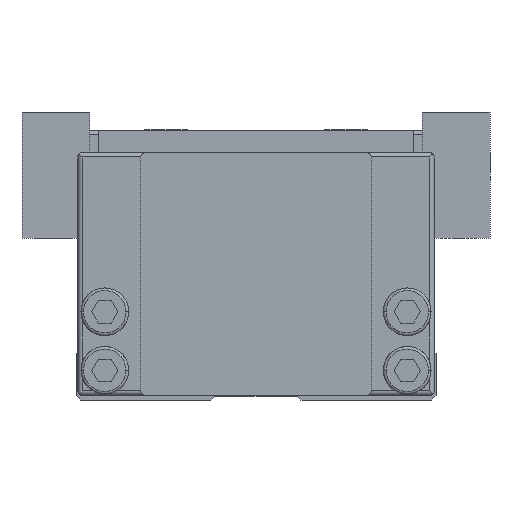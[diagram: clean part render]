
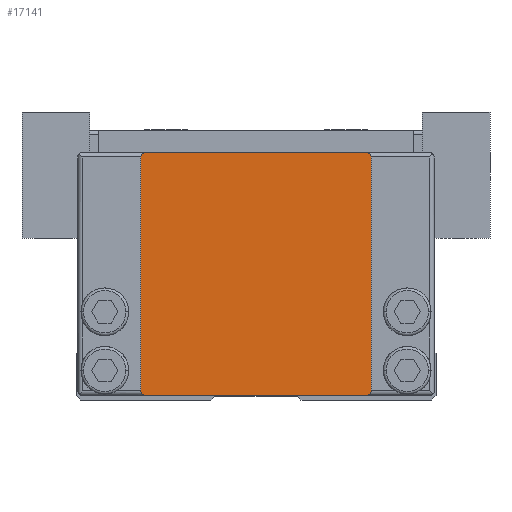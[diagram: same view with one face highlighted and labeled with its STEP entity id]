
A CAD part, front view. The second image highlights one B-rep face of the part: STEP entity #17141.
In plain terms, the highlighted planar face has unit normal (0, -1, 0).
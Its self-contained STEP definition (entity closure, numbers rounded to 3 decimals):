
#8811=VERTEX_POINT('',#23581);
#10031=EDGE_CURVE('',#14265,#21553,#24934,.T.);
#10365=EDGE_CURVE('',#14687,#12547,#25298,.T.);
#10517=EDGE_CURVE('',#21553,#13191,#25470,.T.);
#12243=EDGE_CURVE('',#13191,#8811,#27373,.T.);
#12547=VERTEX_POINT('',#27702);
#13179=EDGE_CURVE('',#17317,#19255,#28398,.T.);
#13191=VERTEX_POINT('',#28412);
#14261=EDGE_CURVE('',#19255,#14265,#29606,.T.);
#14265=VERTEX_POINT('',#29610);
#14687=VERTEX_POINT('',#30088);
#15271=EDGE_CURVE('',#8811,#14687,#30730,.T.);
#17141=ADVANCED_FACE('',(#32796),#32797,.T.);
#17317=VERTEX_POINT('',#32987);
#17895=EDGE_CURVE('',#12547,#17317,#33624,.T.);
#19255=VERTEX_POINT('',#35131);
#21553=VERTEX_POINT('',#37688);
#23581=CARTESIAN_POINT('',(12.3,0.0,27.5));
#24934=LINE('',#42702,#42703);
#25298=LINE('',#43223,#43224);
#25470=CIRCLE('',#43518,0.5);
#27373=LINE('',#46368,#46369);
#27702=CARTESIAN_POINT('',(12.8,0.0,1.0));
#28398=LINE('',#47982,#47983);
#28412=CARTESIAN_POINT('',(-12.3,0.0,27.5));
#29606=CIRCLE('',#49680,0.5);
#29610=CARTESIAN_POINT('',(-12.8,0.0,1.0));
#30088=CARTESIAN_POINT('',(12.8,0.0,27.0));
#30730=CIRCLE('',#51256,0.5);
#32796=FACE_OUTER_BOUND('',#54266,.T.);
#32797=PLANE('',#54267);
#32987=CARTESIAN_POINT('',(12.3,0.0,0.5));
#33624=CIRCLE('',#55502,0.5);
#35131=CARTESIAN_POINT('',(-12.3,0.0,0.5));
#37688=CARTESIAN_POINT('',(-12.8,0.0,27.0));
#42702=CARTESIAN_POINT('',(-12.8,0.0,27.0));
#42703=VECTOR('',#65493,1.0);
#43223=CARTESIAN_POINT('',(12.8,0.0,1.0));
#43224=VECTOR('',#65883,1.0);
#43518=AXIS2_PLACEMENT_3D('',#66092,#66093,#66094);
#46368=CARTESIAN_POINT('',(12.3,0.0,27.5));
#46369=VECTOR('',#68324,1.0);
#47982=CARTESIAN_POINT('',(-12.3,0.0,0.5));
#47983=VECTOR('',#69448,1.0);
#49680=AXIS2_PLACEMENT_3D('',#70905,#70906,#70907);
#51256=AXIS2_PLACEMENT_3D('',#72191,#72192,#72193);
#54266=EDGE_LOOP('',(#74286,#74287,#74288,#74289,#74290,#74291,#74292,#74293));
#54267=AXIS2_PLACEMENT_3D('',#74294,#74295,#74296);
#55502=AXIS2_PLACEMENT_3D('',#75221,#75222,#75223);
#65493=DIRECTION('',(0.0,0.0,1.0));
#65883=DIRECTION('',(-0.0,0.0,-1.0));
#66092=CARTESIAN_POINT('',(-12.3,0.0,27.0));
#66093=DIRECTION('',(0.0,1.0,-0.0));
#66094=DIRECTION('',(0.,0.0,1.0));
#68324=DIRECTION('',(1.0,0.0,0.0));
#69448=DIRECTION('',(-1.0,0.0,-0.0));
#70905=CARTESIAN_POINT('',(-12.3,0.0,1.));
#70906=DIRECTION('',(0.0,1.0,-0.0));
#70907=DIRECTION('',(-1.0,0.0,0.));
#72191=CARTESIAN_POINT('',(12.3,0.0,27.0));
#72192=DIRECTION('',(-0.0,1.0,0.0));
#72193=DIRECTION('',(1.0,0.0,0.));
#74286=ORIENTED_EDGE('',*,*,#10031,.F.);
#74287=ORIENTED_EDGE('',*,*,#14261,.F.);
#74288=ORIENTED_EDGE('',*,*,#13179,.F.);
#74289=ORIENTED_EDGE('',*,*,#17895,.F.);
#74290=ORIENTED_EDGE('',*,*,#10365,.F.);
#74291=ORIENTED_EDGE('',*,*,#15271,.F.);
#74292=ORIENTED_EDGE('',*,*,#12243,.F.);
#74293=ORIENTED_EDGE('',*,*,#10517,.F.);
#74294=CARTESIAN_POINT('',(0.,0.0,14.0));
#74295=DIRECTION('',(0.0,-1.0,0.0));
#74296=DIRECTION('',(1.0,0.0,0.0));
#75221=CARTESIAN_POINT('',(12.3,0.0,1.));
#75222=DIRECTION('',(-0.0,1.0,0.0));
#75223=DIRECTION('',(0.0,0.0,-1.0));
